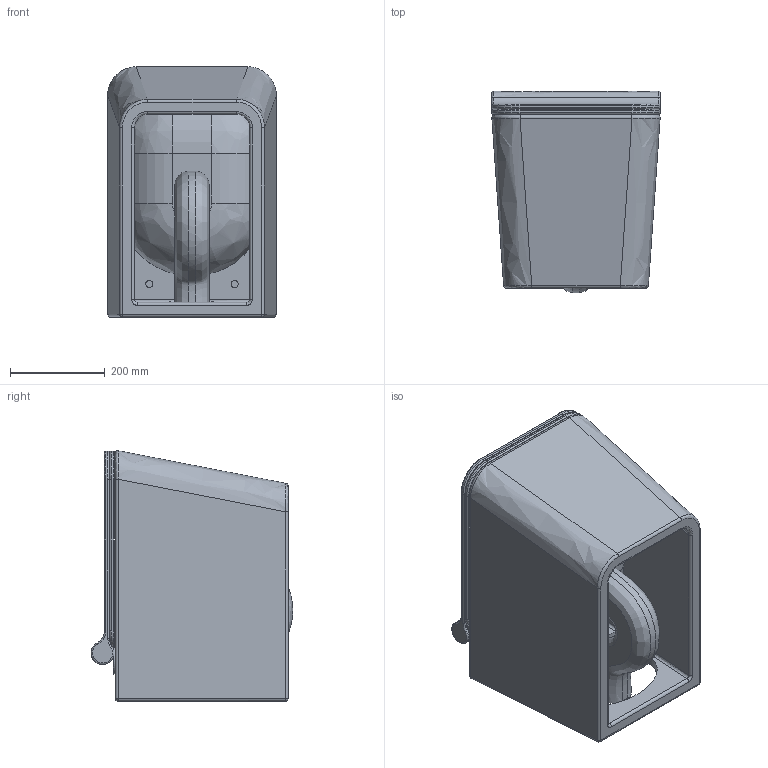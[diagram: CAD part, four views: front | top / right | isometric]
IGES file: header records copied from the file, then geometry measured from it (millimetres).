
Global section: file name: e5eb4b3f-a9e5-4c21-b7ce-e157ee49d6eb; native system: unknown; preprocessor: unknown; author: unknown; organization: unknown; date: 20200702.111803; units: millimetre
Bounding box: 356 x 425.44 x 528.71 mm (x, y, z)
Volume: 25693358.7 mm3; surface area: 2308920.7 mm2
Topology: 5 solids, 5 shells, 564 faces, 1361 edges, 811 vertices
Faces by surface type: bspline 564
